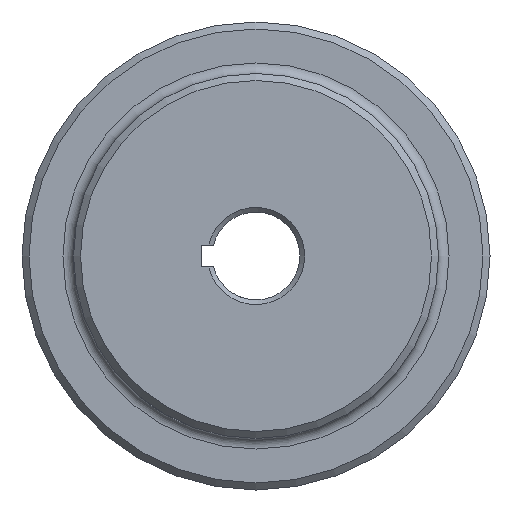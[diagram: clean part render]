
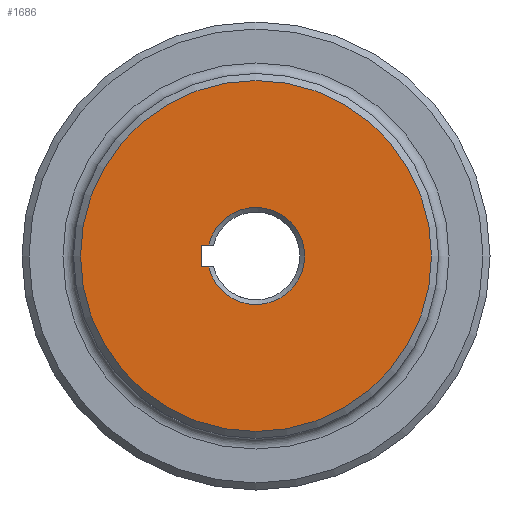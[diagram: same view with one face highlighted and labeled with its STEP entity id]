
A CAD part, left-side view. The second image highlights one B-rep face of the part: STEP entity #1686.
In plain terms, the highlighted planar face has unit normal (-1, 0, 0).
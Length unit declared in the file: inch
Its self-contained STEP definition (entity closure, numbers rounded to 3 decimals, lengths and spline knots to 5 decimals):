
#135 = PLANE ( 'NONE',  #631 ) ;
#136 = LINE ( 'NONE', #217, #674 ) ;
#145 = CARTESIAN_POINT ( 'NONE',  ( 0., 0., -1.5 ) ) ;
#153 = DIRECTION ( 'NONE',  ( 0., 0., -1. ) ) ;
#158 = ORIENTED_EDGE ( 'NONE', *, *, #1084, .T. ) ;
#176 = CARTESIAN_POINT ( 'NONE',  ( 0., 0., 0. ) ) ;
#217 = CARTESIAN_POINT ( 'NONE',  ( 0., 0.46285, -0.0935 ) ) ;
#237 = EDGE_LOOP ( 'NONE', ( #503 ) ) ;
#462 = EDGE_LOOP ( 'NONE', ( #2120, #158, #567, #469 ) ) ;
#469 = ORIENTED_EDGE ( 'NONE', *, *, #736, .F. ) ;
#503 = ORIENTED_EDGE ( 'NONE', *, *, #917, .T. ) ;
#567 = ORIENTED_EDGE ( 'NONE', *, *, #872, .F. ) ;
#580 = DIRECTION ( 'NONE',  ( 0., 0., -1. ) ) ;
#595 = DIRECTION ( 'NONE',  ( -1., 0., 0. ) ) ;
#608 = DIRECTION ( 'NONE',  ( 0., -1., 0. ) ) ;
#622 = VERTEX_POINT ( 'NONE', #145 ) ;
#631 = AXIS2_PLACEMENT_3D ( 'NONE', #176, #1777, #1551 ) ;
#639 = AXIS2_PLACEMENT_3D ( 'NONE', #1877, #595, #153 ) ;
#674 = VECTOR ( 'NONE', #2129, 39.37008 ) ;
#687 = FACE_BOUND ( 'NONE', #462, .T. ) ;
#735 = CARTESIAN_POINT ( 'NONE',  ( 0., 0., 0. ) ) ;
#736 = EDGE_CURVE ( 'NONE', #1137, #2110, #136, .T. ) ;
#741 = CARTESIAN_POINT ( 'NONE',  ( 0., 0., 0.0935 ) ) ;
#749 = DIRECTION ( 'NONE',  ( 0., 1., 0. ) ) ;
#785 = VERTEX_POINT ( 'NONE', #1973 ) ;
#868 = CARTESIAN_POINT ( 'NONE',  ( 0., 0., -0.0935 ) ) ;
#872 = EDGE_CURVE ( 'NONE', #2110, #1203, #1458, .T. ) ;
#906 = VECTOR ( 'NONE', #608, 39.37008 ) ;
#917 = EDGE_CURVE ( 'NONE', #622, #622, #1504, .T. ) ;
#1044 = CIRCLE ( 'NONE', #2282, 0.41515 ) ;
#1084 = EDGE_CURVE ( 'NONE', #785, #1203, #1044, .T. ) ;
#1137 = VERTEX_POINT ( 'NONE', #2287 ) ;
#1203 = VERTEX_POINT ( 'NONE', #2189 ) ;
#1458 = LINE ( 'NONE', #868, #906 ) ;
#1461 = FACE_OUTER_BOUND ( 'NONE', #237, .T. ) ;
#1475 = VECTOR ( 'NONE', #749, 39.37008 ) ;
#1504 = CIRCLE ( 'NONE', #639, 1.5 ) ;
#1551 = DIRECTION ( 'NONE',  ( 0., 0., -1. ) ) ;
#1590 = CARTESIAN_POINT ( 'NONE',  ( 0., 0.46285, -0.0935 ) ) ;
#1686 = ADVANCED_FACE ( 'NONE', ( #1461, #687 ), #135, .F. ) ;
#1742 = DIRECTION ( 'NONE',  ( 1., 0., 0. ) ) ;
#1777 = DIRECTION ( 'NONE',  ( 1., 0., 0. ) ) ;
#1790 = LINE ( 'NONE', #741, #1475 ) ;
#1877 = CARTESIAN_POINT ( 'NONE',  ( 0., 0., 0. ) ) ;
#1973 = CARTESIAN_POINT ( 'NONE',  ( 0., 0.40448, 0.0935 ) ) ;
#2110 = VERTEX_POINT ( 'NONE', #1590 ) ;
#2120 = ORIENTED_EDGE ( 'NONE', *, *, #2360, .F. ) ;
#2129 = DIRECTION ( 'NONE',  ( 0., 0., -1. ) ) ;
#2189 = CARTESIAN_POINT ( 'NONE',  ( 0., 0.40448, -0.0935 ) ) ;
#2282 = AXIS2_PLACEMENT_3D ( 'NONE', #735, #1742, #580 ) ;
#2287 = CARTESIAN_POINT ( 'NONE',  ( 0., 0.46285, 0.0935 ) ) ;
#2360 = EDGE_CURVE ( 'NONE', #785, #1137, #1790, .T. ) ;
